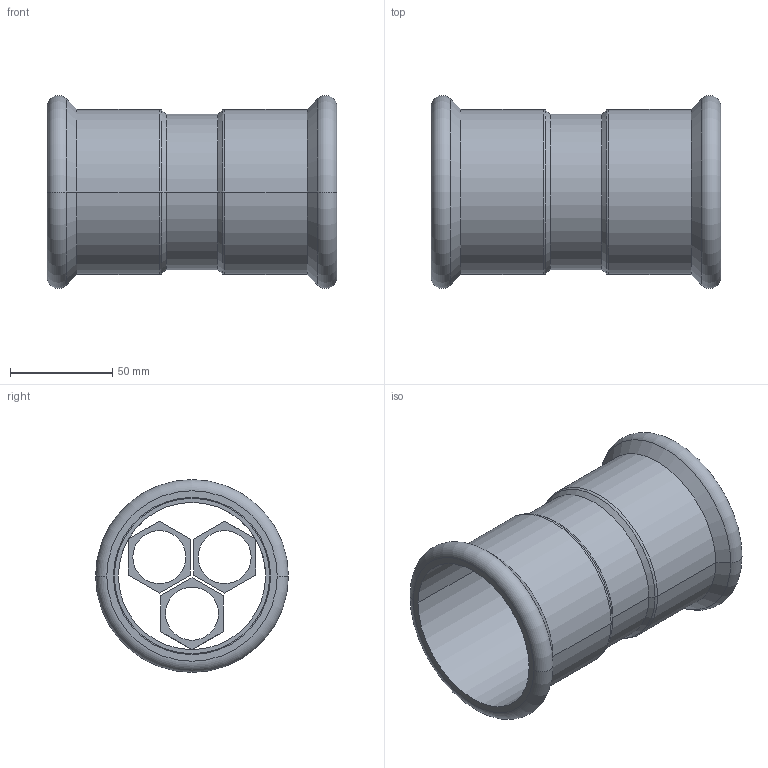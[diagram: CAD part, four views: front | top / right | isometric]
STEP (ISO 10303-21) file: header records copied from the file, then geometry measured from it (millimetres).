
FILE_DESCRIPTION(('OneSpaceDesigner STEP Export'),'2;1');
FILE_NAME('R2701 76x76.stp','2010-06-08T13:22:22',(''),(''),'OneSpace Designer STEP processor for AP214 (Solid Model)','OneSpace Modeling 15.00A 14-Mar-2007 (C) CoCreate Software GmbH','');
FILE_SCHEMA(('AUTOMOTIVE_DESIGN { 1 0 10303 214 1 1 1 1 }'));
Length unit declared in the file: millimetre
Products named in the file (2): R2701_76x76
Assembly tree (1 placements, depth 2):
  R2701_76x76
    R2701_76x76
Bounding box: 142 x 94.48 x 94.48 mm (x, y, z)
Volume: 113581.6 mm3; surface area: 84427.3 mm2
Topology: 1 solids, 1 shells, 110 faces, 276 edges, 178 vertices
Faces by surface type: plane 60, cylinder 34, cone 8, torus 8
Entity records: 2911 total; most frequent: ORIENTED_EDGE 552, CARTESIAN_POINT 474, DIRECTION 418, EDGE_CURVE 276, VERTEX_POINT 178, VECTOR 174, LINE 174, EDGE_LOOP 134
